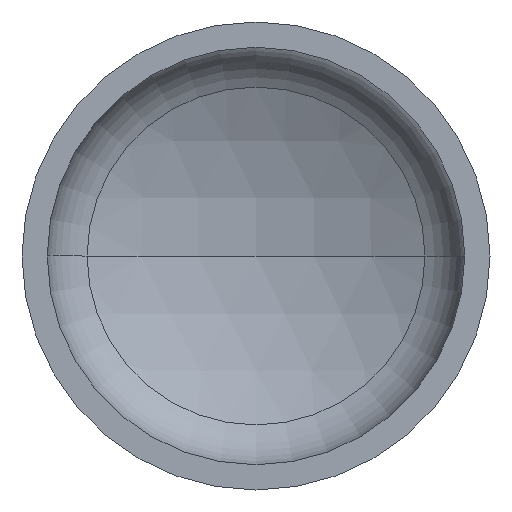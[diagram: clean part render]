
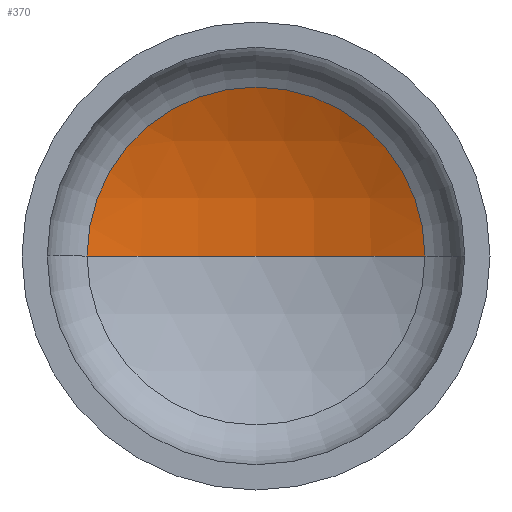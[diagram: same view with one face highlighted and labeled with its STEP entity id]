
A CAD part, front view. The second image highlights one B-rep face of the part: STEP entity #370.
In plain terms, the highlighted spherical face has radius 1600 mm.
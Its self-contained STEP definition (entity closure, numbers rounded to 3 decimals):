
#7 = AXIS2_PLACEMENT_3D ( 'NONE', #189, #245, #383 ) ;
#31 = AXIS2_PLACEMENT_3D ( 'NONE', #148, #150, #152 ) ;
#32 = AXIS2_PLACEMENT_3D ( 'NONE', #170, #171, #163 ) ;
#69 = EDGE_CURVE ( 'NONE', #340, #316, #249, .T. ) ;
#70 = EDGE_CURVE ( 'NONE', #147, #340, #332, .T. ) ;
#120 = CARTESIAN_POINT ( 'NONE',  ( -721.86, 351.657, 0. ) ) ;
#121 = FACE_OUTER_BOUND ( 'NONE', #373, .T. ) ;
#125 = DIRECTION ( 'NONE',  ( 0., 0., -1. ) ) ;
#128 = CIRCLE ( 'NONE', #7, 1600. ) ;
#130 = CARTESIAN_POINT ( 'NONE',  ( 721.86, 351.657, 0. ) ) ;
#147 = VERTEX_POINT ( 'NONE', #168 ) ;
#148 = CARTESIAN_POINT ( 'NONE',  ( 0., -1076.25, 0. ) ) ;
#150 = DIRECTION ( 'NONE',  ( 0., 0., -1. ) ) ;
#151 = ORIENTED_EDGE ( 'NONE', *, *, #70, .T. ) ;
#152 = DIRECTION ( 'NONE',  ( -1., 0., 0. ) ) ;
#163 = DIRECTION ( 'NONE',  ( 1., 0., 0. ) ) ;
#168 = CARTESIAN_POINT ( 'NONE',  ( 0., 523.75, 0. ) ) ;
#170 = CARTESIAN_POINT ( 'NONE',  ( 0., 351.657, 0. ) ) ;
#171 = DIRECTION ( 'NONE',  ( 0., -1., 0. ) ) ;
#189 = CARTESIAN_POINT ( 'NONE',  ( 0., -1076.25, 0. ) ) ;
#197 = CARTESIAN_POINT ( 'NONE',  ( 0., -1076.25, 0. ) ) ;
#207 = AXIS2_PLACEMENT_3D ( 'NONE', #197, #125, #257 ) ;
#244 = ORIENTED_EDGE ( 'NONE', *, *, #69, .T. ) ;
#245 = DIRECTION ( 'NONE',  ( 0., 0., 1. ) ) ;
#249 = CIRCLE ( 'NONE', #32, 721.86 ) ;
#257 = DIRECTION ( 'NONE',  ( -1., 0., 0. ) ) ;
#264 = SPHERICAL_SURFACE ( 'NONE', #207, 1600. ) ;
#274 = ORIENTED_EDGE ( 'NONE', *, *, #345, .F. ) ;
#316 = VERTEX_POINT ( 'NONE', #120 ) ;
#332 = CIRCLE ( 'NONE', #31, 1600. ) ;
#340 = VERTEX_POINT ( 'NONE', #130 ) ;
#345 = EDGE_CURVE ( 'NONE', #147, #316, #128, .T. ) ;
#370 = ADVANCED_FACE ( 'NONE', ( #121 ), #264, .F. ) ;
#373 = EDGE_LOOP ( 'NONE', ( #274, #151, #244 ) ) ;
#383 = DIRECTION ( 'NONE',  ( 1., 0., 0. ) ) ;
